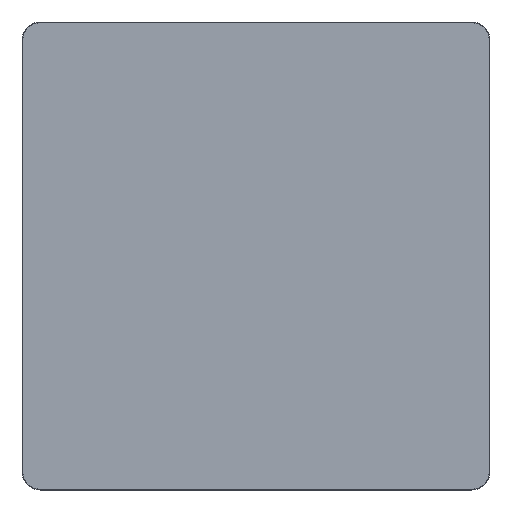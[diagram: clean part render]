
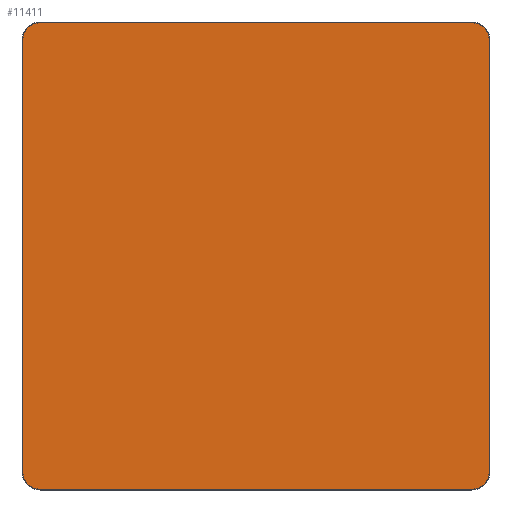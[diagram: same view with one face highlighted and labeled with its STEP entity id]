
A CAD part, top view. The second image highlights one B-rep face of the part: STEP entity #11411.
In plain terms, the highlighted planar face has unit normal (0, 0, 1).
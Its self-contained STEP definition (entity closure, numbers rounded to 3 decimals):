
#11336=CARTESIAN_POINT('',(0.,0.,20.));
#11337=DIRECTION('',(1.,0.,0.));
#11338=DIRECTION('',(0.,0.,1.));
#11339=AXIS2_PLACEMENT_3D('',#11336,#11338,#11337);
#11340=PLANE('',#11339);
#11341=CARTESIAN_POINT('',(-415.,-448.5,20.));
#11342=VERTEX_POINT('',#11341);
#11343=CARTESIAN_POINT('',(415.,-448.5,20.));
#11344=VERTEX_POINT('',#11343);
#11345=CARTESIAN_POINT('',(-415.,-448.5,20.));
#11346=DIRECTION('',(1.,0.,0.));
#11347=VECTOR('',#11346,830.);
#11348=LINE('',#11345,#11347);
#11349=EDGE_CURVE('',#11342,#11344,#11348,.T.);
#11350=ORIENTED_EDGE('E105',*,*,#11349,.T.);
#11351=CARTESIAN_POINT('',(448.5,-415.,20.));
#11352=VERTEX_POINT('',#11351);
#11353=CARTESIAN_POINT('',(415.,-415.,20.));
#11354=DIRECTION('',(0.,-1.,0.));
#11355=DIRECTION('',(0.,-0.,1.));
#11356=AXIS2_PLACEMENT_3D('',#11353,#11355,#11354);
#11357=CIRCLE('',#11356,33.5);
#11358=EDGE_CURVE('',#11344,#11352,#11357,.T.);
#11359=ORIENTED_EDGE('E107',*,*,#11358,.T.);
#11360=CARTESIAN_POINT('',(448.5,415.,20.));
#11361=VERTEX_POINT('',#11360);
#11362=CARTESIAN_POINT('',(448.5,-415.,20.));
#11363=DIRECTION('',(0.,1.,0.));
#11364=VECTOR('',#11363,830.);
#11365=LINE('',#11362,#11364);
#11366=EDGE_CURVE('',#11352,#11361,#11365,.T.);
#11367=ORIENTED_EDGE('E109',*,*,#11366,.T.);
#11368=CARTESIAN_POINT('',(415.,448.5,20.));
#11369=VERTEX_POINT('',#11368);
#11370=CARTESIAN_POINT('',(415.,415.,20.));
#11371=DIRECTION('',(1.,0.,0.));
#11372=DIRECTION('',(0.,0.,1.));
#11373=AXIS2_PLACEMENT_3D('',#11370,#11372,#11371);
#11374=CIRCLE('',#11373,33.5);
#11375=EDGE_CURVE('',#11361,#11369,#11374,.T.);
#11376=ORIENTED_EDGE('E111',*,*,#11375,.T.);
#11377=CARTESIAN_POINT('',(-415.,448.5,20.));
#11378=VERTEX_POINT('',#11377);
#11379=CARTESIAN_POINT('',(415.,448.5,20.));
#11380=DIRECTION('',(-1.,0.,0.));
#11381=VECTOR('',#11380,830.);
#11382=LINE('',#11379,#11381);
#11383=EDGE_CURVE('',#11369,#11378,#11382,.T.);
#11384=ORIENTED_EDGE('E113',*,*,#11383,.T.);
#11385=CARTESIAN_POINT('',(-448.5,415.,20.));
#11386=VERTEX_POINT('',#11385);
#11387=CARTESIAN_POINT('',(-415.,415.,20.));
#11388=DIRECTION('',(0.,1.,0.));
#11389=DIRECTION('',(0.,0.,1.));
#11390=AXIS2_PLACEMENT_3D('',#11387,#11389,#11388);
#11391=CIRCLE('',#11390,33.5);
#11392=EDGE_CURVE('',#11378,#11386,#11391,.T.);
#11393=ORIENTED_EDGE('E115',*,*,#11392,.T.);
#11394=CARTESIAN_POINT('',(-448.5,-415.,20.));
#11395=VERTEX_POINT('',#11394);
#11396=CARTESIAN_POINT('',(-448.5,415.,20.));
#11397=DIRECTION('',(0.,-1.,0.));
#11398=VECTOR('',#11397,830.);
#11399=LINE('',#11396,#11398);
#11400=EDGE_CURVE('',#11386,#11395,#11399,.T.);
#11401=ORIENTED_EDGE('E117',*,*,#11400,.T.);
#11402=CARTESIAN_POINT('',(-415.,-415.,20.));
#11403=DIRECTION('',(-1.,0.,0.));
#11404=DIRECTION('',(0.,0.,1.));
#11405=AXIS2_PLACEMENT_3D('',#11402,#11404,#11403);
#11406=CIRCLE('',#11405,33.5);
#11407=EDGE_CURVE('',#11395,#11342,#11406,.T.);
#11408=ORIENTED_EDGE('E119',*,*,#11407,.T.);
#11409=EDGE_LOOP('',(#11350,#11359,#11367,#11376,#11384,#11393,#11401,#11408));
#11410=FACE_OUTER_BOUND('',#11409,.T.);
#11411=ADVANCED_FACE('F2',(#11410),#11340,.T.);
